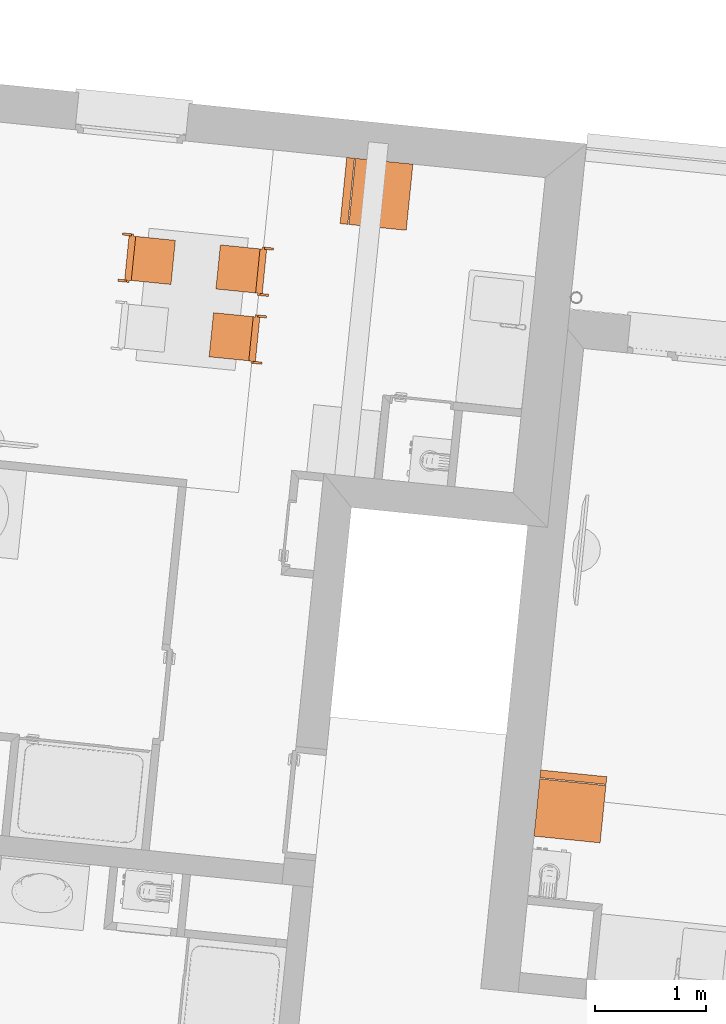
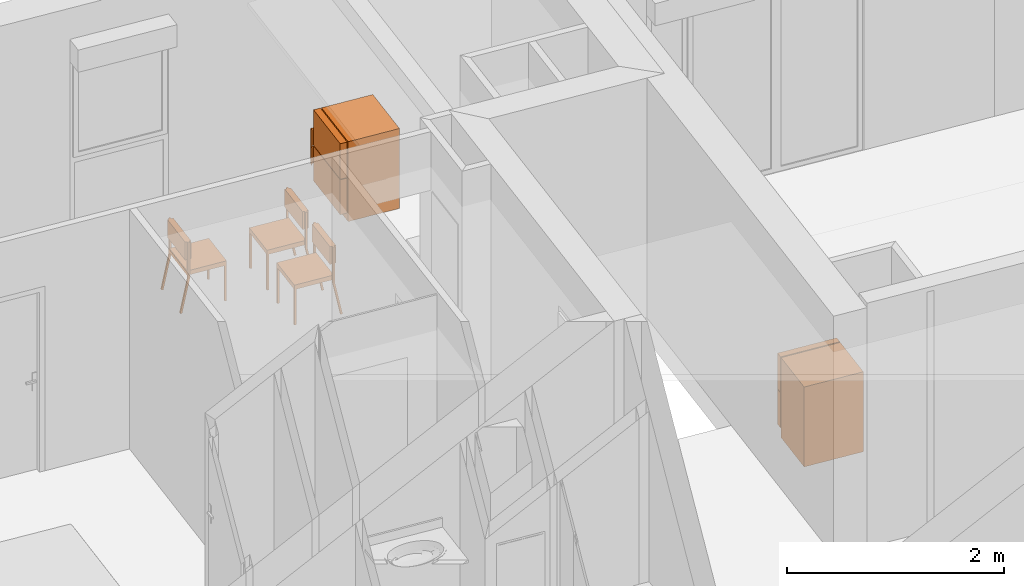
# One storey, part 159 of 164: 5 proxies.
"""IFC2X3 building model written with IfcOpenShell, lengths in millimetres."""

from ifc_helpers import new_model, entity, si_unit, converted_unit, derived_unit, money_unit, direction, frame, origin_with_axes, place, context, subcontext, project, spatial, open_shell, faceted_brep, surface_model, source, transform, mapped, type_object, element, save


model = new_model("IFC2X3")

# Units and contexts
model_context = context("Model", 3, precision=0.01, world=origin_with_axes(), true_north=direction((0.0, 1.0)))
body_context = subcontext(model_context, "Body", "Model", "MODEL_VIEW")
ifc_project = project(units=[si_unit("LENGTHUNIT", "METRE", prefix="MILLI"), si_unit("AREAUNIT", "SQUARE_METRE"), si_unit("VOLUMEUNIT", "CUBIC_METRE"), converted_unit("PLANEANGLEUNIT", "DEGREE", entity("IfcPlaneAngleMeasure", 0.0174532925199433), si_unit("PLANEANGLEUNIT", "RADIAN"), dimensions=[0, 0, 0, 0, 0, 0, 0]), money_unit("USD"), converted_unit("TIMEUNIT", "Year", entity("IfcTimeMeasure", 31557600.0), si_unit("TIMEUNIT", "SECOND"), dimensions=[0, 0, 1, 0, 0, 0, 0]), si_unit("MASSUNIT", "GRAM", prefix="KILO"), si_unit("THERMODYNAMICTEMPERATUREUNIT", "DEGREE_CELSIUS"), si_unit("LUMINOUSINTENSITYUNIT", "LUMEN"), si_unit("ENERGYUNIT", "JOULE", prefix="MEGA"), derived_unit("THERMALCONDUCTANCEUNIT", [(si_unit("POWERUNIT", "WATT"), 1), (si_unit("LENGTHUNIT", "METRE"), -1), (si_unit("THERMODYNAMICTEMPERATUREUNIT", "KELVIN"), -1)]), derived_unit("SPECIFICHEATCAPACITYUNIT", [(si_unit("ENERGYUNIT", "JOULE"), 1), (si_unit("MASSUNIT", "GRAM", prefix="KILO"), -1), (si_unit("THERMODYNAMICTEMPERATUREUNIT", "KELVIN"), -1)]), derived_unit("MASSDENSITYUNIT", [(si_unit("MASSUNIT", "GRAM", prefix="KILO"), 1), (si_unit("VOLUMEUNIT", "CUBIC_METRE"), -1)])], contexts=[model_context])

# Site, building, storey
site_placement = place(None, origin_with_axes())
site = spatial("IfcSite", under=ifc_project, at=site_placement, Name="Site", CompositionType="ELEMENT")
building_placement = place(site_placement, origin_with_axes())
building = spatial("IfcBuilding", under=site, at=building_placement, Name="Bâtiment", CompositionType="ELEMENT")
storey_placement = place(building_placement, frame((0.0, 0.0, 5750.0), z_axis=(0.0, 0.0, 1.0), x_axis=(1.0, 0.0, 0.0)))
storey = spatial("IfcBuildingStorey", under=building, at=storey_placement, Name="Etage1", CompositionType="ELEMENT", Elevation=5750.0)

# Proxies
building_element_proxy_type = type_object("IfcBuildingElementProxyType", PredefinedType="NOTDEFINED")
shared_shape_1 = source(origin_with_axes(), body_context, "Body", "Brep", [
    faceted_brep([(39.99999978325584, 0.0, 0.0), (19.99999989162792, 0.0, 0.0), (19.99999989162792, 19.99999936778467, 0.0), (39.99999978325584, 19.99999936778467, 0.0), (39.99999978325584, 0.0, 400.0), (19.99999989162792, 0.0, 400.0), (19.99999989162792, 19.99999936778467, 400.0), (39.99999978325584, 19.99999936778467, 400.0)], [[[0, 1, 2, 3]], [[1, 0, 4, 5]], [[2, 1, 5, 6]], [[3, 2, 6, 7]], [[0, 3, 7, 4]], [[5, 4, 7, 6]]]),
    faceted_brep([(419.9999977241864, 0.0, 0.0), (399.9999978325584, 0.0, 0.0), (399.9999978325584, 19.99999936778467, 0.0), (419.9999977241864, 19.99999936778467, 0.0), (419.9999977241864, 0.0, 400.0), (399.9999978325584, 0.0, 400.0), (399.9999978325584, 19.99999936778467, 400.0), (419.9999977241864, 19.99999936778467, 400.0)], [[[0, 1, 2, 3]], [[1, 0, 4, 5]], [[2, 1, 5, 6]], [[3, 2, 6, 7]], [[0, 3, 7, 4]], [[5, 4, 7, 6]]]),
    faceted_brep([(399.9999978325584, 0.0, 400.0000000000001), (39.99999978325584, 0.0, 400.0000000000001), (39.99999978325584, 19.99999936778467, 400.0000000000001), (399.9999978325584, 19.99999936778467, 400.0000000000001), (399.9999978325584, 0.0, 420.0000000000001), (39.99999978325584, 0.0, 420.0000000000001), (39.99999978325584, 19.99999936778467, 420.0000000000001), (399.9999978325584, 19.99999936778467, 420.0000000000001)], [[[0, 1, 2, 3]], [[1, 0, 4, 5]], [[2, 1, 5, 6]], [[3, 2, 6, 7]], [[0, 3, 7, 4]], [[5, 4, 7, 6]]]),
    faceted_brep([(39.99999978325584, 19.99999936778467, 400.0000000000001), (19.99999989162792, 19.99999936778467, 400.0000000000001), (19.99999989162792, 379.9999879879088, 400.0000000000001), (39.99999978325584, 379.9999879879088, 400.0000000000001), (39.99999978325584, 19.99999936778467, 420.0000000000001), (19.99999989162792, 19.99999936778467, 420.0000000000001), (19.99999989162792, 379.9999879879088, 420.0000000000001), (39.99999978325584, 379.9999879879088, 420.0000000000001)], [[[0, 1, 2, 3]], [[1, 0, 4, 5]], [[2, 1, 5, 6]], [[3, 2, 6, 7]], [[0, 3, 7, 4]], [[5, 4, 7, 6]]]),
    faceted_brep([(419.9999977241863, 379.9999879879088, 400.0000000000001), (19.99999989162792, 379.9999879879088, 400.0000000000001), (19.99999989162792, 399.9999873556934, 400.0000000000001), (419.9999977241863, 399.9999873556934, 400.0000000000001), (419.9999977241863, 379.9999879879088, 420.0000000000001), (19.99999989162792, 379.9999879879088, 420.0000000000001), (19.99999989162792, 399.9999873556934, 420.0000000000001), (419.9999977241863, 399.9999873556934, 420.0000000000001)], [[[0, 1, 2, 3]], [[1, 0, 4, 5]], [[2, 1, 5, 6]], [[3, 2, 6, 7]], [[0, 3, 7, 4]], [[5, 4, 7, 6]]]),
    faceted_brep([(419.9999977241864, 19.99999936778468, 400.0000000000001), (399.9999978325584, 19.99999936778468, 400.0000000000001), (399.9999978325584, 379.9999879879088, 400.0000000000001), (419.9999977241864, 379.9999879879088, 400.0000000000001), (419.9999977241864, 19.99999936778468, 420.0000000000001), (399.9999978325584, 19.99999936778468, 420.0000000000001), (399.9999978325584, 379.9999879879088, 420.0000000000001), (419.9999977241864, 379.9999879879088, 420.0000000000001)], [[[0, 1, 2, 3]], [[1, 0, 4, 5]], [[2, 1, 5, 6]], [[3, 2, 6, 7]], [[0, 3, 7, 4]], [[5, 4, 7, 6]]]),
    faceted_brep([(419.9999977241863, 0.0, 400.0), (19.99999989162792, 0.0, 400.0), (19.99999989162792, 399.9999873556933, 400.0), (419.9999977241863, 399.9999873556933, 400.0), (419.9999977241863, 0.0, 450.0), (19.99999989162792, 0.0, 450.0), (19.99999989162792, 399.9999873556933, 450.0), (419.9999977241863, 399.9999873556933, 450.0)], [[[0, 1, 2, 3]], [[1, 0, 4, 5]], [[2, 1, 5, 6]], [[3, 2, 6, 7]], [[0, 3, 7, 4]], [[5, 4, 7, 6]]]),
    faceted_brep([(19.99999989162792, 379.9999879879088, 380.0), (0.0, 379.9999879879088, 380.0), (0.0, 399.9999873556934, 380.0), (19.99999989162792, 399.9999873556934, 380.0), (19.99999989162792, 379.9999879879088, 780.0), (0.0, 379.9999879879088, 780.0), (0.0, 399.9999873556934, 780.0), (19.99999989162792, 399.9999873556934, 780.0)], [[[0, 1, 2, 3]], [[1, 0, 4, 5]], [[2, 1, 5, 6]], [[3, 2, 6, 7]], [[0, 3, 7, 4]], [[5, 4, 7, 6]]]),
    faceted_brep([(439.9999976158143, 379.9999879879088, 380.0), (419.9999977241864, 379.9999879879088, 380.0), (419.9999977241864, 399.9999873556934, 380.0), (439.9999976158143, 399.9999873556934, 380.0), (439.9999976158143, 379.9999879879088, 780.0), (419.9999977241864, 379.9999879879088, 780.0), (419.9999977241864, 399.9999873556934, 780.0), (439.9999976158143, 399.9999873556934, 780.0)], [[[0, 1, 2, 3]], [[1, 0, 4, 5]], [[2, 1, 5, 6]], [[3, 2, 6, 7]], [[0, 3, 7, 4]], [[5, 4, 7, 6]]]),
    faceted_brep([(419.9999977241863, 359.999988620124, 580.0000000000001), (19.99999989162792, 359.999988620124, 580.0000000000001), (19.99999989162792, 419.9999867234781, 580.0000000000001), (419.9999977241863, 419.9999867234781, 580.0000000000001), (419.9999977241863, 359.999988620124, 780.0), (19.99999989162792, 359.999988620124, 780.0), (19.99999989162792, 419.9999867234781, 780.0), (419.9999977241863, 419.9999867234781, 780.0)], [[[0, 1, 2, 3]], [[1, 0, 4, 5]], [[2, 1, 5, 6]], [[3, 2, 6, 7]], [[0, 3, 7, 4]], [[5, 4, 7, 6]]]),
    faceted_brep([(19.99999989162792, 459.9999854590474, 0.0), (0.0, 459.9999854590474, 0.0), (0.0, 479.5709559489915, 4.120326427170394), (19.99999989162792, 479.5709559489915, 4.120326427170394), (19.99999989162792, 379.997669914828, 379.999760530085), (0.0, 379.997669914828, 379.999760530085), (0.0, 399.5686404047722, 384.1200869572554), (19.99999989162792, 399.5686404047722, 384.1200869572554)], [[[0, 1, 2, 3]], [[1, 0, 4, 5]], [[2, 1, 5, 6]], [[3, 2, 6, 7]], [[0, 3, 7, 4]], [[5, 4, 7, 6]]]),
    faceted_brep([(439.9999976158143, 459.9999854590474, 0.0), (419.9999977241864, 459.9999854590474, 0.0), (419.9999977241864, 479.5709559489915, 4.120326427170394), (439.9999976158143, 479.5709559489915, 4.120326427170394), (439.9999976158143, 379.997669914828, 379.999760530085), (419.9999977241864, 379.997669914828, 379.999760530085), (419.9999977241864, 399.5686404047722, 384.1200869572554), (439.9999976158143, 399.5686404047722, 384.1200869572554)], [[[0, 1, 2, 3]], [[1, 0, 4, 5]], [[2, 1, 5, 6]], [[3, 2, 6, 7]], [[0, 3, 7, 4]], [[5, 4, 7, 6]]]),
])
proxy_placement = place(storey_placement, frame((2222758.820331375, -606135.7309401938, 0.0), z_axis=(0.0, 0.0, 1.0), x_axis=(0.1000048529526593, 0.9949869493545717, 0.0)))
element("IfcBuildingElementProxy", 1, at=proxy_placement, inside=storey, type_object=building_element_proxy_type, Name="Obj.-027", context=body_context, shape_type="MappedRepresentation", body=[
    mapped(shared_shape_1, transform((0.0, 0.0, 0.0))),
])
shared_shape_2 = source(origin_with_axes(), body_context, "Body", "Brep", [
    faceted_brep([(-39.99999978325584, 0.0, 0.0), (-39.99999978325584, 19.99999936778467, 0.0), (-19.99999989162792, 19.99999936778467, 0.0), (-19.99999989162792, 0.0, 0.0), (-39.99999978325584, 0.0, 400.0), (-39.99999978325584, 19.99999936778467, 400.0), (-19.99999989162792, 19.99999936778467, 400.0), (-19.99999989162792, 0.0, 400.0)], [[[0, 1, 2, 3]], [[0, 4, 5, 1]], [[1, 5, 6, 2]], [[2, 6, 7, 3]], [[3, 7, 4, 0]], [[7, 6, 5, 4]]]),
    faceted_brep([(-419.9999977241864, 0.0, 0.0), (-419.9999977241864, 19.99999936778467, 0.0), (-399.9999978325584, 19.99999936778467, 0.0), (-399.9999978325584, 0.0, 0.0), (-419.9999977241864, 0.0, 400.0), (-419.9999977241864, 19.99999936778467, 400.0), (-399.9999978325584, 19.99999936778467, 400.0), (-399.9999978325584, 0.0, 400.0)], [[[0, 1, 2, 3]], [[0, 4, 5, 1]], [[1, 5, 6, 2]], [[2, 6, 7, 3]], [[3, 7, 4, 0]], [[7, 6, 5, 4]]]),
    faceted_brep([(-399.9999978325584, 0.0, 400.0000000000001), (-399.9999978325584, 19.99999936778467, 400.0000000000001), (-39.99999978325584, 19.99999936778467, 400.0000000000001), (-39.99999978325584, 0.0, 400.0000000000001), (-399.9999978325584, 0.0, 420.0000000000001), (-399.9999978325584, 19.99999936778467, 420.0000000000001), (-39.99999978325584, 19.99999936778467, 420.0000000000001), (-39.99999978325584, 0.0, 420.0000000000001)], [[[0, 1, 2, 3]], [[0, 4, 5, 1]], [[1, 5, 6, 2]], [[2, 6, 7, 3]], [[3, 7, 4, 0]], [[7, 6, 5, 4]]]),
    faceted_brep([(-39.99999978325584, 19.99999936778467, 400.0000000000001), (-39.99999978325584, 379.9999879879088, 400.0000000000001), (-19.99999989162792, 379.9999879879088, 400.0000000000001), (-19.99999989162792, 19.99999936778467, 400.0000000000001), (-39.99999978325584, 19.99999936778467, 420.0000000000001), (-39.99999978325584, 379.9999879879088, 420.0000000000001), (-19.99999989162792, 379.9999879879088, 420.0000000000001), (-19.99999989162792, 19.99999936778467, 420.0000000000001)], [[[0, 1, 2, 3]], [[0, 4, 5, 1]], [[1, 5, 6, 2]], [[2, 6, 7, 3]], [[3, 7, 4, 0]], [[7, 6, 5, 4]]]),
    faceted_brep([(-419.9999977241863, 379.9999879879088, 400.0000000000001), (-419.9999977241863, 399.9999873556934, 400.0000000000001), (-19.99999989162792, 399.9999873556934, 400.0000000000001), (-19.99999989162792, 379.9999879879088, 400.0000000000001), (-419.9999977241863, 379.9999879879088, 420.0000000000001), (-419.9999977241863, 399.9999873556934, 420.0000000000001), (-19.99999989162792, 399.9999873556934, 420.0000000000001), (-19.99999989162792, 379.9999879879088, 420.0000000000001)], [[[0, 1, 2, 3]], [[0, 4, 5, 1]], [[1, 5, 6, 2]], [[2, 6, 7, 3]], [[3, 7, 4, 0]], [[7, 6, 5, 4]]]),
    faceted_brep([(-419.9999977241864, 19.99999936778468, 400.0000000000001), (-419.9999977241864, 379.9999879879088, 400.0000000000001), (-399.9999978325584, 379.9999879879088, 400.0000000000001), (-399.9999978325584, 19.99999936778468, 400.0000000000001), (-419.9999977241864, 19.99999936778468, 420.0000000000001), (-419.9999977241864, 379.9999879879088, 420.0000000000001), (-399.9999978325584, 379.9999879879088, 420.0000000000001), (-399.9999978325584, 19.99999936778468, 420.0000000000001)], [[[0, 1, 2, 3]], [[0, 4, 5, 1]], [[1, 5, 6, 2]], [[2, 6, 7, 3]], [[3, 7, 4, 0]], [[7, 6, 5, 4]]]),
    faceted_brep([(-419.9999977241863, 0.0, 400.0), (-419.9999977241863, 399.9999873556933, 400.0), (-19.99999989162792, 399.9999873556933, 400.0), (-19.99999989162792, 0.0, 400.0), (-419.9999977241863, 0.0, 450.0), (-419.9999977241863, 399.9999873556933, 450.0), (-19.99999989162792, 399.9999873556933, 450.0), (-19.99999989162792, 0.0, 450.0)], [[[0, 1, 2, 3]], [[0, 4, 5, 1]], [[1, 5, 6, 2]], [[2, 6, 7, 3]], [[3, 7, 4, 0]], [[7, 6, 5, 4]]]),
    faceted_brep([(-19.99999989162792, 379.9999879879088, 380.0), (-19.99999989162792, 399.9999873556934, 380.0), (0.0, 399.9999873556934, 380.0), (0.0, 379.9999879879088, 380.0), (-19.99999989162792, 379.9999879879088, 780.0), (-19.99999989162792, 399.9999873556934, 780.0), (0.0, 399.9999873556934, 780.0), (0.0, 379.9999879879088, 780.0)], [[[0, 1, 2, 3]], [[0, 4, 5, 1]], [[1, 5, 6, 2]], [[2, 6, 7, 3]], [[3, 7, 4, 0]], [[7, 6, 5, 4]]]),
    faceted_brep([(-439.9999976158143, 379.9999879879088, 380.0), (-439.9999976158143, 399.9999873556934, 380.0), (-419.9999977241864, 399.9999873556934, 380.0), (-419.9999977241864, 379.9999879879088, 380.0), (-439.9999976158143, 379.9999879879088, 780.0), (-439.9999976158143, 399.9999873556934, 780.0), (-419.9999977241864, 399.9999873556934, 780.0), (-419.9999977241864, 379.9999879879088, 780.0)], [[[0, 1, 2, 3]], [[0, 4, 5, 1]], [[1, 5, 6, 2]], [[2, 6, 7, 3]], [[3, 7, 4, 0]], [[7, 6, 5, 4]]]),
    faceted_brep([(-419.9999977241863, 359.999988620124, 580.0000000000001), (-419.9999977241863, 419.9999867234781, 580.0000000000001), (-19.99999989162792, 419.9999867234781, 580.0000000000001), (-19.99999989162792, 359.999988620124, 580.0000000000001), (-419.9999977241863, 359.999988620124, 780.0), (-419.9999977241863, 419.9999867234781, 780.0), (-19.99999989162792, 419.9999867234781, 780.0), (-19.99999989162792, 359.999988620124, 780.0)], [[[0, 1, 2, 3]], [[0, 4, 5, 1]], [[1, 5, 6, 2]], [[2, 6, 7, 3]], [[3, 7, 4, 0]], [[7, 6, 5, 4]]]),
    faceted_brep([(-19.99999989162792, 459.9999854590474, 0.0), (-19.99999989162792, 479.5709559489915, 4.120326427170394), (0.0, 479.5709559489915, 4.120326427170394), (0.0, 459.9999854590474, 0.0), (-19.99999989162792, 379.997669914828, 379.999760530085), (-19.99999989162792, 399.5686404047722, 384.1200869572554), (0.0, 399.5686404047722, 384.1200869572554), (0.0, 379.997669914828, 379.999760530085)], [[[0, 1, 2, 3]], [[0, 4, 5, 1]], [[1, 5, 6, 2]], [[2, 6, 7, 3]], [[3, 7, 4, 0]], [[7, 6, 5, 4]]]),
    faceted_brep([(-439.9999976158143, 459.9999854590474, 0.0), (-439.9999976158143, 479.5709559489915, 4.120326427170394), (-419.9999977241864, 479.5709559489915, 4.120326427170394), (-419.9999977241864, 459.9999854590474, 0.0), (-439.9999976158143, 379.997669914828, 379.999760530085), (-439.9999976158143, 399.5686404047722, 384.1200869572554), (-419.9999977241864, 399.5686404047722, 384.1200869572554), (-419.9999977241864, 379.997669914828, 379.999760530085)], [[[0, 1, 2, 3]], [[0, 4, 5, 1]], [[1, 5, 6, 2]], [[2, 6, 7, 3]], [[3, 7, 4, 0]], [[7, 6, 5, 4]]]),
])
for number, where, z_axis, x_axis, name in (
    (2, (2223103.316576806, -606788.5804089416, 0.0), (0.0, 0.0, 1.0), (-0.1000048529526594, -0.9949869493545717, 0.0), "Obj.-027"),
    (3, (2223164.832102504, -606176.5386588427, 0.0), (0.0, 0.0, 1.0), (-0.1000048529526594, -0.9949869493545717, 0.0), "Obj.-027"),
):
    element("IfcBuildingElementProxy", number, at=place(storey_placement, frame(where, z_axis=z_axis, x_axis=x_axis)), inside=storey, type_object=building_element_proxy_type, Name=name, context=body_context, shape_type="MappedRepresentation", body=[
        mapped(shared_shape_2, transform((0.0, 0.0, 0.0))),
    ])
shared_shape_3 = source(origin_with_axes(), body_context, "Body", "SurfaceModel", [
    faceted_brep([(0.0, 80.0, 100.0), (0.0, 80.0, 900.0), (-600.0, 80.0, 900.0), (-600.0, 80.0, 100.0), (0.0, 600.0, 100.0), (0.0, 600.0, 900.0), (-600.0, 600.0, 900.0), (-600.0, 600.0, 100.0)], [[[0, 1, 2, 3]], [[4, 5, 1, 0]], [[1, 5, 6, 2]], [[3, 2, 6, 7]], [[0, 3, 7, 4]], [[7, 6, 5, 4]]]),
    faceted_brep([(0.0, 80.0, 0.0), (0.0, 80.0, 100.0), (-600.0, 80.0, 100.0), (-600.0, 80.0, 0.0), (0.0, 600.0, 0.0), (0.0, 600.0, 100.0), (-600.0, 600.0, 100.0), (-600.0, 600.0, 0.0)], [[[0, 1, 2, 3]], [[4, 5, 1, 0]], [[1, 5, 6, 2]], [[3, 2, 6, 7]], [[0, 3, 7, 4]], [[7, 6, 5, 4]]]),
    faceted_brep([(0.0, 70.0, 100.0), (0.0, 0.0, 100.0), (-600.0, 0.0, 100.0), (-600.0, 70.0, 100.0), (0.0, 70.00000000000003, 494.0), (0.0, 0.0, 494.0), (-600.0, 0.0, 494.0), (-600.0, 70.00000000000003, 494.0)], [[[0, 1, 2, 3]], [[4, 5, 1, 0]], [[1, 5, 6, 2]], [[3, 2, 6, 7]], [[0, 3, 7, 4]], [[7, 6, 5, 4]]]),
    faceted_brep([(0.0, 70.0, 500.0), (0.0, 0.0, 500.0), (-600.0, 0.0, 500.0), (-600.0, 70.0, 500.0), (0.0, 70.00000000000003, 900.0), (0.0, 0.0, 900.0), (-600.0, 0.0, 900.0), (-600.0, 70.00000000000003, 900.0)], [[[0, 1, 2, 3]], [[4, 5, 1, 0]], [[1, 5, 6, 2]], [[3, 2, 6, 7]], [[0, 3, 7, 4]], [[7, 6, 5, 4]]]),
    surface_model("IfcShellBasedSurfaceModel", [(-600.0, -30.0, 300.0000000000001), (-600.0, 0.0, 300.0000000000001), (-600.0, 0.0, 494.0000000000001), (-600.0, -30.0, 494.0000000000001)], [open_shell([[[0, 1, 2, 3]]])]),
    surface_model("IfcShellBasedSurfaceModel", [(-600.0, -30.0, 300.0000000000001), (-570.0, -30.0, 300.0000000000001), (-570.0, -30.0, 494.0000000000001), (-600.0, -30.0, 494.0000000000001)], [open_shell([[[0, 1, 2, 3]]])]),
    surface_model("IfcShellBasedSurfaceModel", [(-600.0, -30.0, 500.0), (-600.0, 0.0, 500.0), (-600.0, 0.0, 700.0), (-600.0, -30.0, 700.0)], [open_shell([[[0, 1, 2, 3]]])]),
    surface_model("IfcShellBasedSurfaceModel", [(-600.0, -30.0, 500.0), (-570.0, -30.0, 500.0), (-570.0, -30.0, 700.0), (-600.0, -30.0, 700.0)], [open_shell([[[0, 1, 2, 3]]])]),
])
for number, where, z_axis, x_axis, name in (
    (4, (2224287.672434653, -605566.475621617, 0.0), (0.0, 0.0, 1.0), (-0.1005433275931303, -0.9949326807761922, 0.0), "Obj.-019"),
    (5, (2226098.656769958, -610498.8443808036, 0.0), (0.0, 0.0, 1.0), (-0.9948759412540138, 0.1011032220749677, 0.0), "Obj.-019"),
):
    element("IfcBuildingElementProxy", number, at=place(storey_placement, frame(where, z_axis=z_axis, x_axis=x_axis)), inside=storey, type_object=building_element_proxy_type, Name=name, context=body_context, shape_type="MappedRepresentation", body=[
        mapped(shared_shape_3, transform((0.0, 0.0, 0.0))),
    ])

save(model, "model.ifc")
